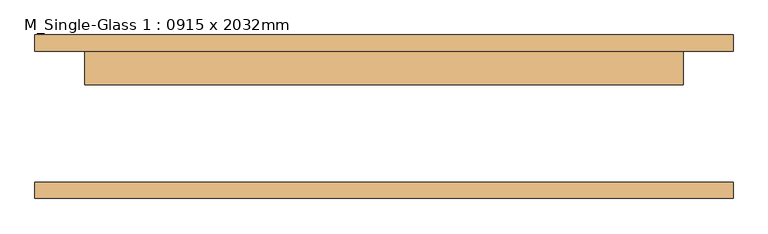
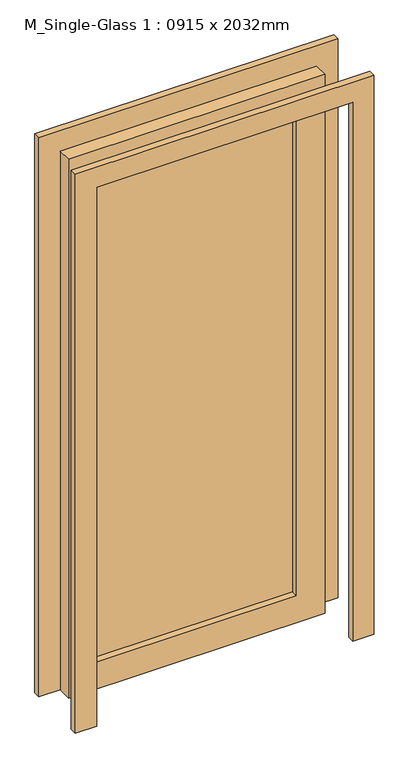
"""IFC4 building model written with IfcOpenShell, lengths in millimetres: door geometry, M_Single-Glass 1 : 0915 x 2032mm."""

from ifc_helpers import new_model, si_unit, frame, origin, place, context, project, spatial, polyline, outline, extrude, source, transform, mapped, element, save


def m_single_glass_1_0915_x_2032mm_504c90cc(model_context):
    return source(origin(), model_context, "Body", "SweptSolid", [
        extrude(outline(polyline([(2032.0, 457.5), (0.0, 457.5), (0.0, 533.5), (2108.0, 533.5), (2108.0, -533.5), (0.0, -533.5), (0.0, -457.5), (2032.0, -457.5), (2032.0, 457.5)])), frame((0.0, -125.0, 0.0), z_axis=(0.0, 1.0, 0.0), x_axis=(0.0, 0.0, 1.0)), (0.0, 0.0, 1.0), 25.0),
        extrude(outline(polyline([(2032.0, 457.5), (0.0, 457.5), (0.0, 533.5), (2108.0, 533.5), (2108.0, -533.5), (0.0, -533.5), (0.0, -457.5), (2032.0, -457.5), (2032.0, 457.5)])), frame((0.0, 100.0, 0.0), z_axis=(0.0, 1.0, 0.0), x_axis=(0.0, 0.0, 1.0)), (0.0, 0.0, 1.0), 25.0),
        extrude(outline(polyline([(355.5, 71.425), (-355.5, 71.425), (-355.5, 77.775), (355.5, 77.775), (355.5, 71.425)])), frame((0.0, 0.0, 102.0), z_axis=(0.0, 0.0, 1.0), x_axis=(1.0, 0.0, 0.0)), (0.0, 0.0, 1.0), 1828.0),
        extrude(outline(polyline([(2032.0, 457.5), (2032.0, -457.5), (0.0, -457.5), (0.0, 457.5), (2032.0, 457.5)]), holes=[polyline([(1930.0, -355.5), (1930.0, 355.5), (102.0, 355.5), (102.0, -355.5), (1930.0, -355.5)])]), frame((0.0, 49.0, 0.0), z_axis=(0.0, 1.0, 0.0), x_axis=(0.0, 0.0, 1.0)), (0.0, 0.0, 1.0), 51.0),
    ])


if __name__ == "__main__":
    model = new_model("IFC4")
    model_context = context("Model", 3, world=origin())
    ifc_project = project(units=[si_unit("LENGTHUNIT", "METRE", prefix="MILLI")], contexts=[model_context])
    site = spatial("IfcSite", under=ifc_project)
    building = spatial("IfcBuilding", under=site)
    placement = place(None, origin())
    m_single_glass_1_0915_x_2032mm_shape = m_single_glass_1_0915_x_2032mm_504c90cc(model_context)
    element("IfcDoor", 1, ObjectType="M_Single-Glass 1 : 0915 x 2032mm", at=placement, inside=building, context=model_context, shape_type="MappedRepresentation", body=[
        mapped(m_single_glass_1_0915_x_2032mm_shape, transform((0.0, 0.0, 0.0), x_axis=(1.0, 0.0, 0.0), y_axis=(0.0, 1.0, 0.0), z_axis=(0.0, 0.0, 1.0))),
    ])
    save(model, "model.ifc")
